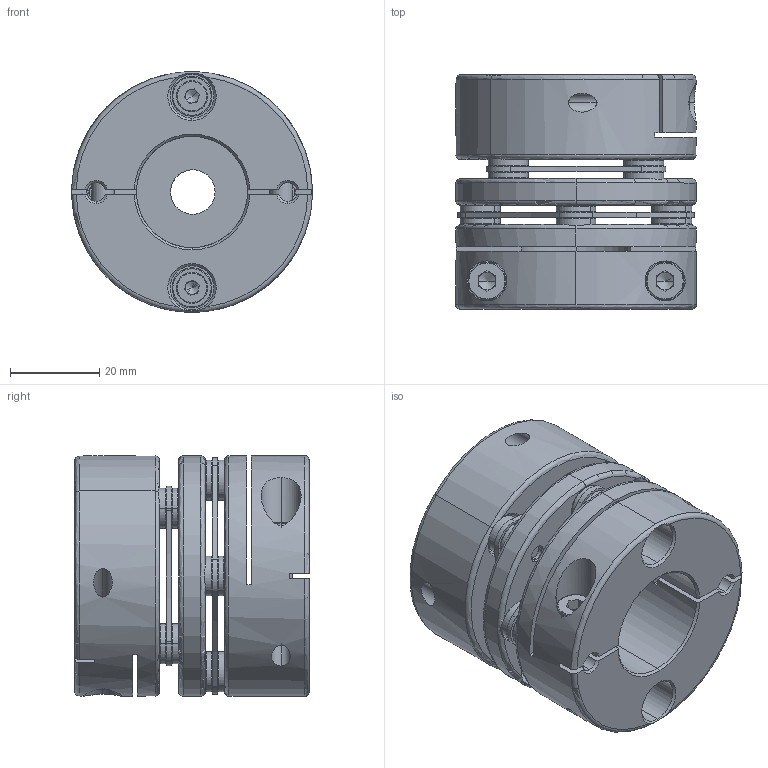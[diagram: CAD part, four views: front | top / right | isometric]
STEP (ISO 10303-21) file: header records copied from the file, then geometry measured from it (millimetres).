
FILE_DESCRIPTION (( 'STEP AP203' ), '1' );
FILE_NAME ('SDWB-54C-10X25_203.STEP', '2013-01-22T02:00:44', ( '' ), ( '' ), 'SwSTEP 2.0', 'SolidWorks 2012', '' );
FILE_SCHEMA (( 'CONFIG_CONTROL_DESIGN' ));
Length unit declared in the file: millimetre
Products named in the file (1): SDWB-54C-10X25_203
Bounding box: 54 x 52.6 x 54 mm (x, y, z)
Volume: 78739.7 mm3; surface area: 38324.9 mm2
Topology: 1 solids, 17 shells, 936 faces, 2202 edges, 1318 vertices
Faces by surface type: cylinder 308, plane 268, torus 182, cone 170, bspline 8
Entity records: 28421 total; most frequent: CARTESIAN_POINT 6190, DIRECTION 5120, ORIENTED_EDGE 4356, EDGE_CURVE 2178, AXIS2_PLACEMENT_3D 2144, VERTEX_POINT 1318, CIRCLE 1215, EDGE_LOOP 1060
